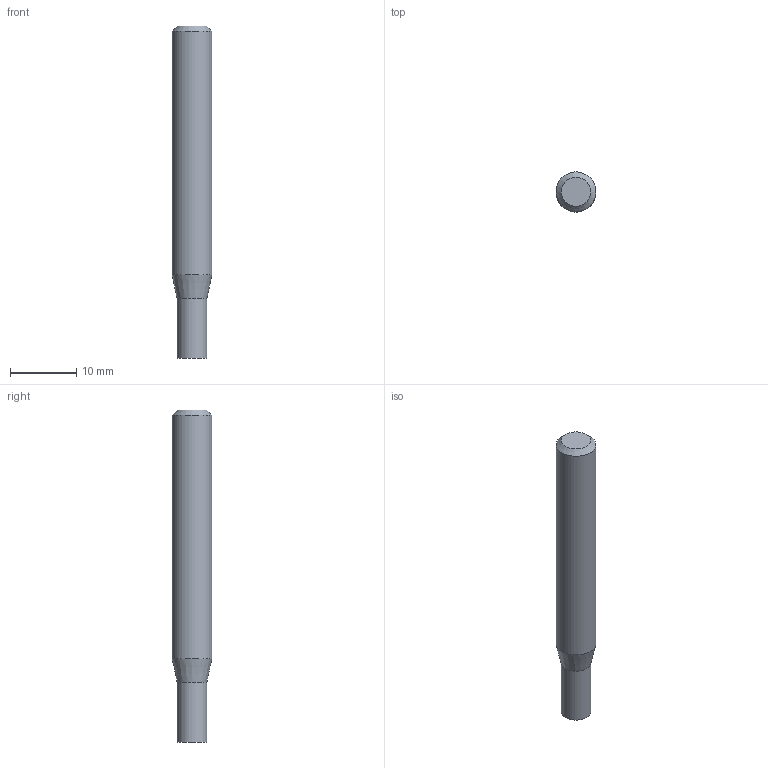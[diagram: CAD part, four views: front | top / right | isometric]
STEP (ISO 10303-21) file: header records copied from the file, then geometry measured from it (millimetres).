
FILE_DESCRIPTION((''),'2;1');
FILE_NAME('C:\Users\nsx150\AppData\Local\Temp\Mastercam 2021\E36A1X9CCL\TEMP.step','2023-04-21T15:13:00',(''),(''),'STEP Write','Mastercam 2021 ... CNC Software, Inc.','');
FILE_SCHEMA(('AUTOMOTIVE_DESIGN'));
Length unit declared in the file: millimetre
Products named in the file (1): None
Bounding box: 6 x 6 x 50 mm (x, y, z)
Volume: 1274 mm3; surface area: 959.4 mm2
Topology: 2 solids, 2 shells, 8 faces, 10 edges, 6 vertices
Faces by surface type: plane 4, cylinder 2, cone 2
Full cylindrical faces by diameter (mm): 4.5 x1, 6 x1
Entity records: 190 total; most frequent: DIRECTION 32, CARTESIAN_POINT 22, AXIS2_PLACEMENT_3D 16, ORIENTED_EDGE 12, EDGE_LOOP 12, STYLED_ITEM 11, ADVANCED_FACE 8, VERTEX_POINT 6
